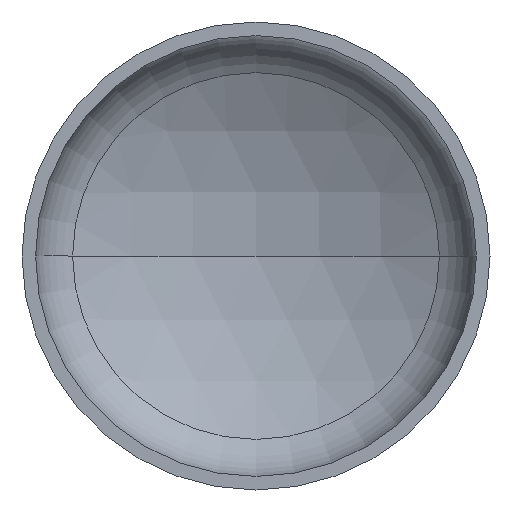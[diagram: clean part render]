
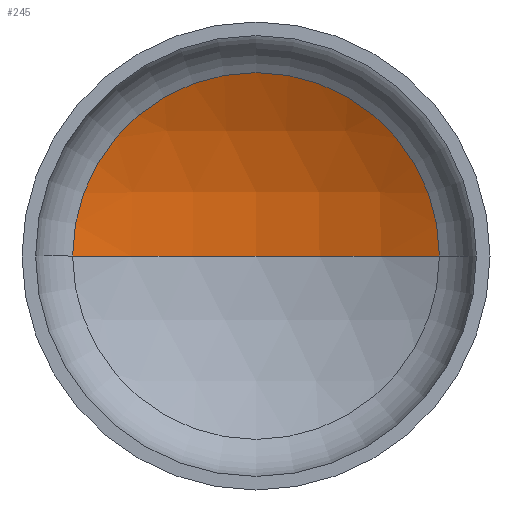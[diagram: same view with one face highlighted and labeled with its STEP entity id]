
A CAD part, front view. The second image highlights one B-rep face of the part: STEP entity #245.
In plain terms, the highlighted spherical face has radius 800 mm.
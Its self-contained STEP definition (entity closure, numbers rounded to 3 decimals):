
#5 = DIRECTION ( 'NONE',  ( 1., 0., 0. ) ) ;
#7 = AXIS2_PLACEMENT_3D ( 'NONE', #234, #348, #258 ) ;
#8 = AXIS2_PLACEMENT_3D ( 'NONE', #231, #346, #349 ) ;
#20 = AXIS2_PLACEMENT_3D ( 'NONE', #230, #241, #271 ) ;
#21 = EDGE_LOOP ( 'NONE', ( #87, #34, #83 ) ) ;
#33 = VERTEX_POINT ( 'NONE', #274 ) ;
#34 = ORIENTED_EDGE ( 'NONE', *, *, #329, .T. ) ;
#36 = AXIS2_PLACEMENT_3D ( 'NONE', #235, #392, #5 ) ;
#72 = EDGE_CURVE ( 'NONE', #121, #75, #80, .T. ) ;
#75 = VERTEX_POINT ( 'NONE', #344 ) ;
#80 = CIRCLE ( 'NONE', #36, 391.938 ) ;
#83 = ORIENTED_EDGE ( 'NONE', *, *, #72, .T. ) ;
#87 = ORIENTED_EDGE ( 'NONE', *, *, #345, .F. ) ;
#121 = VERTEX_POINT ( 'NONE', #185 ) ;
#168 = FACE_OUTER_BOUND ( 'NONE', #21, .T. ) ;
#185 = CARTESIAN_POINT ( 'NONE',  ( 391.938, 225.124, 0. ) ) ;
#230 = CARTESIAN_POINT ( 'NONE',  ( 0., -472.289, 0. ) ) ;
#231 = CARTESIAN_POINT ( 'NONE',  ( 0., -472.289, 0. ) ) ;
#234 = CARTESIAN_POINT ( 'NONE',  ( 0., -472.289, 0. ) ) ;
#235 = CARTESIAN_POINT ( 'NONE',  ( 0., 225.124, 0. ) ) ;
#241 = DIRECTION ( 'NONE',  ( 0., 0., -1. ) ) ;
#245 = ADVANCED_FACE ( 'NONE', ( #168 ), #363, .F. ) ;
#258 = DIRECTION ( 'NONE',  ( 1., 0., 0. ) ) ;
#271 = DIRECTION ( 'NONE',  ( -1., 0., 0. ) ) ;
#274 = CARTESIAN_POINT ( 'NONE',  ( 0., 327.711, 0. ) ) ;
#281 = CIRCLE ( 'NONE', #8, 800. ) ;
#329 = EDGE_CURVE ( 'NONE', #33, #121, #281, .T. ) ;
#336 = CIRCLE ( 'NONE', #7, 800. ) ;
#344 = CARTESIAN_POINT ( 'NONE',  ( -391.938, 225.124, 0. ) ) ;
#345 = EDGE_CURVE ( 'NONE', #33, #75, #336, .T. ) ;
#346 = DIRECTION ( 'NONE',  ( 0., 0., -1. ) ) ;
#348 = DIRECTION ( 'NONE',  ( 0., 0., 1. ) ) ;
#349 = DIRECTION ( 'NONE',  ( -1., 0., 0. ) ) ;
#363 = SPHERICAL_SURFACE ( 'NONE', #20, 800. ) ;
#392 = DIRECTION ( 'NONE',  ( 0., -1., 0. ) ) ;
